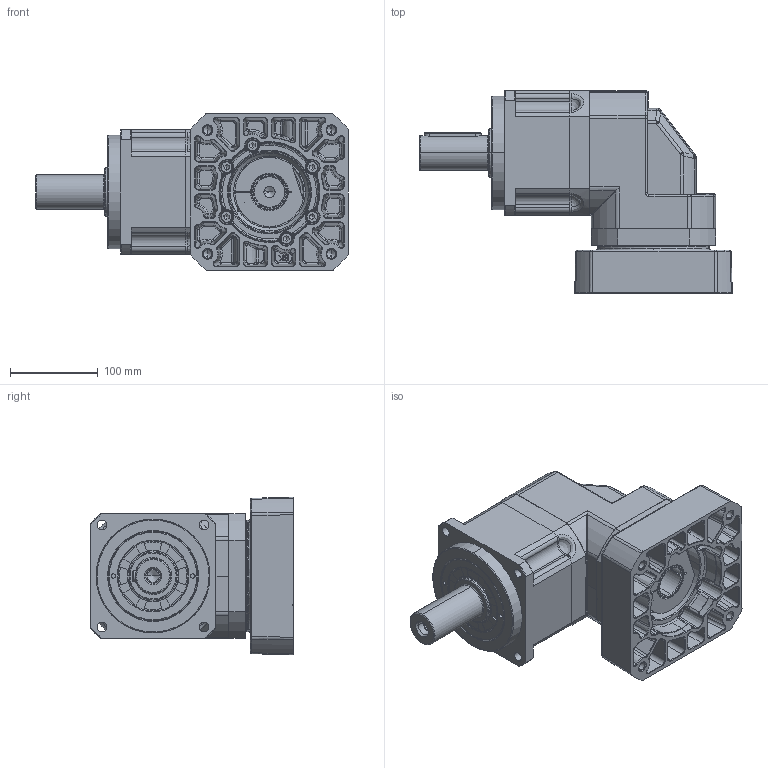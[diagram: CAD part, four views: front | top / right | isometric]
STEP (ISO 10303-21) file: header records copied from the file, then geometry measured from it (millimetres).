
FILE_DESCRIPTION (( 'STEP AP214' ), '1' );
FILE_NAME ('PAR142-L1-S2-P1 35-114.3-200-M12-82.STEP', '2025-02-15T06:39:21', ( '微软用户' ), ( '微软中国' ), 'SwSTEP 2.0', 'SolidWorks 2021', '' );
FILE_SCHEMA (( 'AUTOMOTIVE_DESIGN' ));
Length unit declared in the file: millimetre
Products named in the file (3): PAR142D-L1-S2-35-114.3-200-M12-82.STEP; PAR142-L1-S2-P1 35-114.3-200-M12-82; 19-PAR142F_stp.stp.STEP
Assembly tree (2 placements, depth 2):
  PAR142-L1-S2-P1 35-114.3-200-M12-82
    PAR142D-L1-S2-35-114.3-200-M12-82.STEP
    19-PAR142F_stp.stp.STEP
Bounding box: 357 x 231 x 180 mm (x, y, z)
Volume: 1066819.8 mm3; surface area: 655995.7 mm2
Topology: 1 solids, 60 shells, 2173 faces, 5244 edges, 3154 vertices
Faces by surface type: bspline 739, cylinder 609, plane 502, cone 314, torus 9
Full cylindrical faces by diameter (mm): 17 x1
Entity records: 133296 total; most frequent: CARTESIAN_POINT 89532, ORIENTED_EDGE 10207, DIRECTION 7165, EDGE_CURVE 5156, VERTEX_POINT 3155, AXIS2_PLACEMENT_3D 2824, EDGE_LOOP 2373, ADVANCED_FACE 2173
